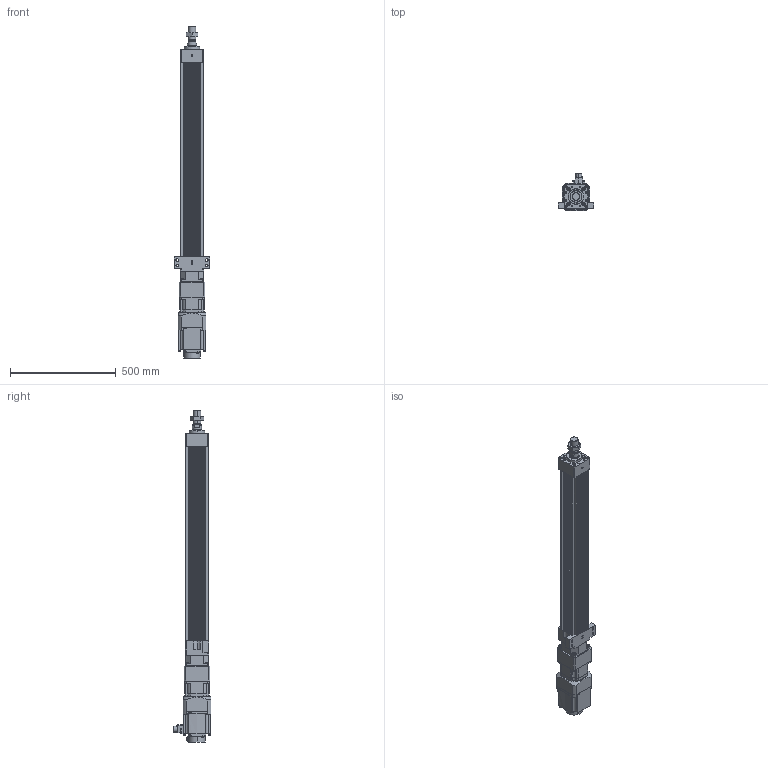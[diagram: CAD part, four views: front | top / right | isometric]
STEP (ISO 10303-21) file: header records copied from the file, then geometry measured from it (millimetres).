
FILE_DESCRIPTION (( 'STEP AP203' ), '1' );
FILE_NAME ('HES110NS(HS)-S750-W015G00-M-FFC.STEP', '2023-01-28T05:49:07', ( 'tms' ), ( '' ), 'SwSTEP 2.0', 'SolidWorks 2013', '' );
FILE_SCHEMA (( 'CONFIG_CONTROL_DESIGN' ));
Length unit declared in the file: millimetre
Products named in the file (8): HES110NS(HS)-S750-W015G00-M-FFC; HG-SR152; HES110 ROD M ST750; P0401400706; AB1151; M36X1.5P; HES110-S750-G120-FFC; AB115-003[HG-SR152]
Assembly tree (7 placements, depth 3):
  HES110NS(HS)-S750-W015G00-M-FFC
    HES110-S750-G120-FFC
    HES110 ROD M ST750
    M36X1.5P
    AB115-003[HG-SR152]
      AB1151
      P0401400706
    HG-SR152
Bounding box: 170 x 177.49 x 1571.5 mm (x, y, z)
Volume: 10019522.9 mm3; surface area: 1447311.1 mm2
Topology: 4 solids, 15 shells, 1222 faces, 3083 edges, 1988 vertices
Faces by surface type: plane 557, cylinder 549, cone 104, bspline 8, torus 4
Entity records: 38313 total; most frequent: CARTESIAN_POINT 7246, DIRECTION 6648, ORIENTED_EDGE 6070, EDGE_CURVE 3045, AXIS2_PLACEMENT_3D 2450, VERTEX_POINT 1988, VECTOR 1748, LINE 1748
